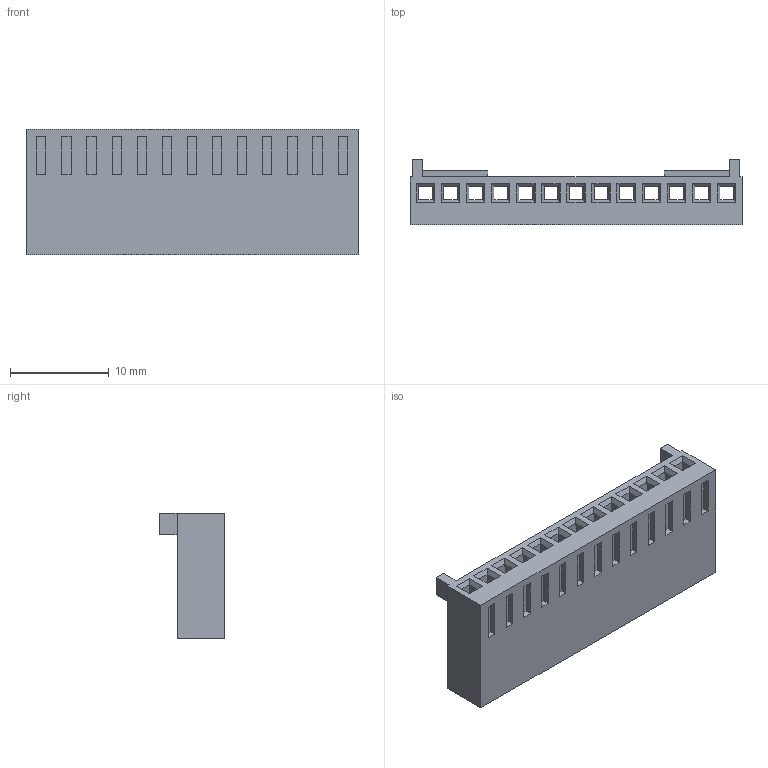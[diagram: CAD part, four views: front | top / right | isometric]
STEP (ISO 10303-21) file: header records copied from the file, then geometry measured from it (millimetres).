
FILE_DESCRIPTION((''),'2;1');
FILE_NAME('022013137','2013-10-11T',('me'),(''),'PRO/ENGINEER BY PARAMETRIC TECHNOLOGY CORPORATION, 2011490','PRO/ENGINEER BY PARAMETRIC TECHNOLOGY CORPORATION, 2011490','');
FILE_SCHEMA(('CONFIG_CONTROL_DESIGN'));
Length unit declared in the file: inch
Products named in the file (1): 022013137
Bounding box: 33.58 x 6.63 x 12.7 mm (x, y, z)
Volume: 1331.7 mm3; surface area: 2834.2 mm2
Topology: 1 solids, 1 shells, 291 faces, 781 edges, 512 vertices
Faces by surface type: plane 291
Entity records: 8912 total; most frequent: CARTESIAN_POINT 1571, ORIENTED_EDGE 1548, DIRECTION 1365, VECTOR 781, LINE 781, EDGE_CURVE 774, VERTEX_POINT 498, EDGE_LOOP 330
